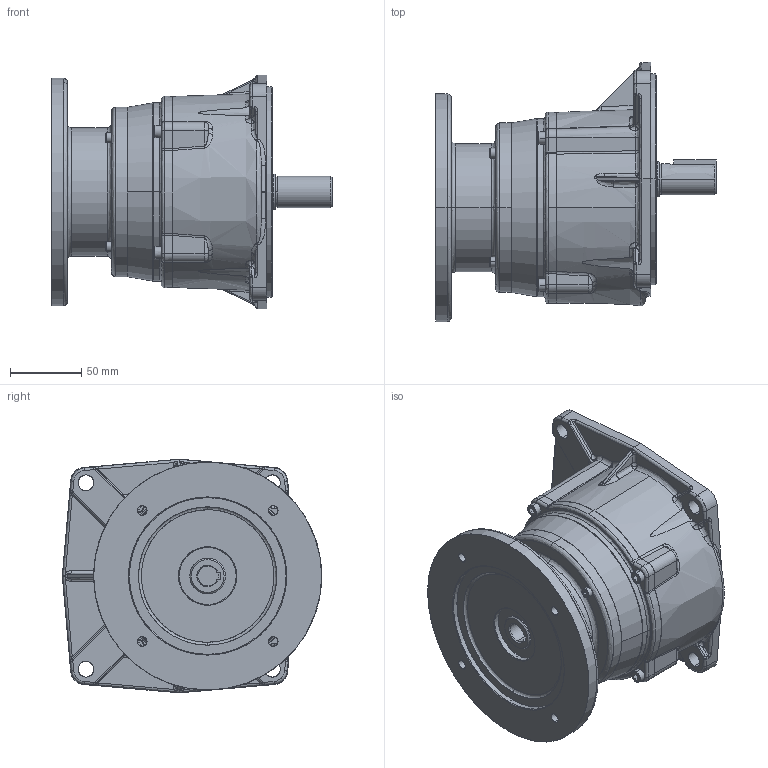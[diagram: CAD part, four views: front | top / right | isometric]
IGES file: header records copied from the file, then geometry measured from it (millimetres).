
Start section: SolidWorks IGES file using analytic representation for surfaces
Bounding box: 197 x 182 x 164 mm (x, y, z)
Surface area: 211196.9 mm2 (no closed solid volume)
Topology: 0 solids, 0 shells, 686 faces, 9155 edges, 9145 vertices
Faces by surface type: bspline 421, revolution 265
